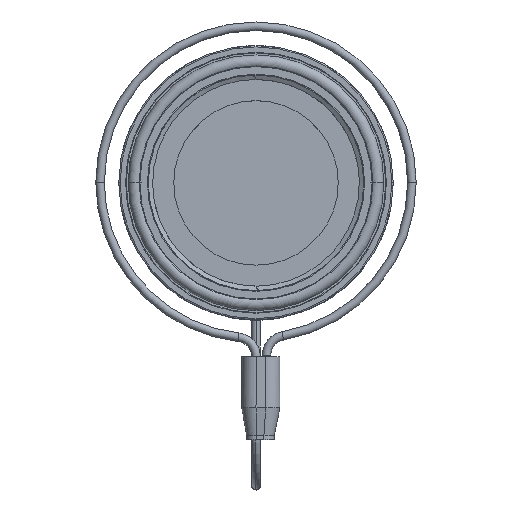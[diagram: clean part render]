
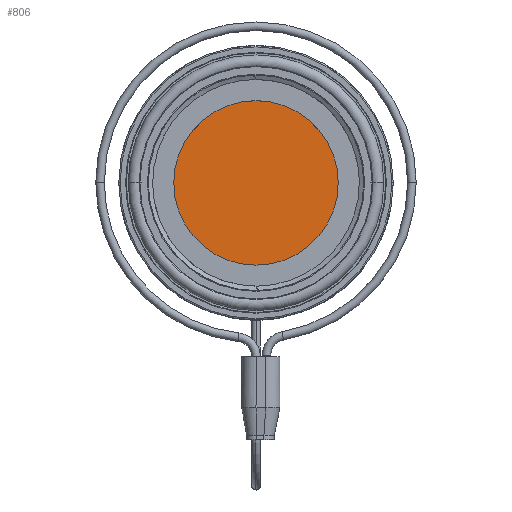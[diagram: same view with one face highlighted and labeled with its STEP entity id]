
A CAD part, top view. The second image highlights one B-rep face of the part: STEP entity #806.
In plain terms, the highlighted planar face has unit normal (0, 0, 1).
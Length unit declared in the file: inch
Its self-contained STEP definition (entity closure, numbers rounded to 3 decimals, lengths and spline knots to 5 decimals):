
#9 = AXIS2_PLACEMENT_3D ( 'NONE', #2023, #4217, #868 ) ;
#305 = AXIS2_PLACEMENT_3D ( 'NONE', #4933, #1498, #6022 ) ;
#340 = VERTEX_POINT ( 'NONE', #2526 ) ;
#806 = ADVANCED_FACE ( 'NONE', ( #958 ), #1531, .F. ) ;
#868 = DIRECTION ( 'NONE',  ( 1., 0., 0. ) ) ;
#958 = FACE_OUTER_BOUND ( 'NONE', #4937, .T. ) ;
#1010 = CARTESIAN_POINT ( 'NONE',  ( 0., 0., -0.8 ) ) ;
#1072 = CIRCLE ( 'NONE', #5081, 0.625 ) ;
#1498 = DIRECTION ( 'NONE',  ( 0., 0., -1. ) ) ;
#1531 = PLANE ( 'NONE',  #305 ) ;
#2023 = CARTESIAN_POINT ( 'NONE',  ( 0., 0., -0.8 ) ) ;
#2526 = CARTESIAN_POINT ( 'NONE',  ( 0.625, 0., -0.8 ) ) ;
#3102 = CIRCLE ( 'NONE', #9, 0.625 ) ;
#3702 = ORIENTED_EDGE ( 'NONE', *, *, #5246, .T. ) ;
#4217 = DIRECTION ( 'NONE',  ( 0., 0., 1. ) ) ;
#4851 = DIRECTION ( 'NONE',  ( 1., 0., 0. ) ) ;
#4933 = CARTESIAN_POINT ( 'NONE',  ( 0., 0., -0.8 ) ) ;
#4937 = EDGE_LOOP ( 'NONE', ( #3702, #5342 ) ) ;
#5008 = CARTESIAN_POINT ( 'NONE',  ( -0.625, 0., -0.8 ) ) ;
#5081 = AXIS2_PLACEMENT_3D ( 'NONE', #1010, #5398, #4851 ) ;
#5246 = EDGE_CURVE ( 'NONE', #340, #6750, #3102, .T. ) ;
#5342 = ORIENTED_EDGE ( 'NONE', *, *, #6202, .T. ) ;
#5398 = DIRECTION ( 'NONE',  ( 0., 0., 1. ) ) ;
#6022 = DIRECTION ( 'NONE',  ( -1., 0., 0. ) ) ;
#6202 = EDGE_CURVE ( 'NONE', #6750, #340, #1072, .T. ) ;
#6750 = VERTEX_POINT ( 'NONE', #5008 ) ;
